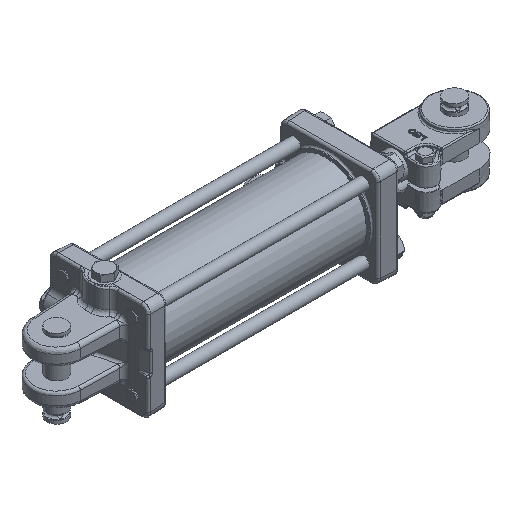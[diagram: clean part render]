
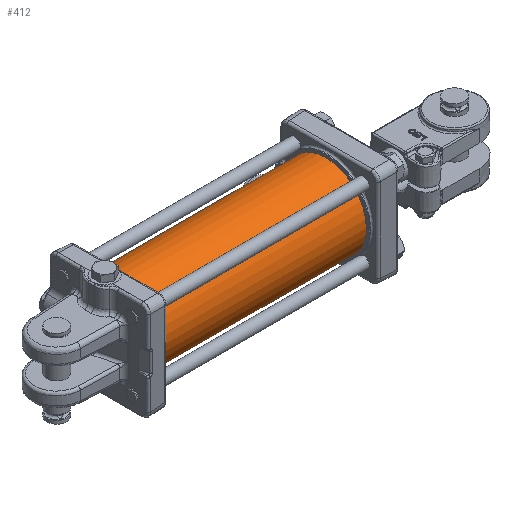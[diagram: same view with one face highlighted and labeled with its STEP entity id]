
A CAD part, isometric view. The second image highlights one B-rep face of the part: STEP entity #412.
In plain terms, the highlighted cylindrical face has radius 52.388 mm (diameter 104.775 mm), a full revolution.
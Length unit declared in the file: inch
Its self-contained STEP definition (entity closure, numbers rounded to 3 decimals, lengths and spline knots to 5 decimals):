
#169=CARTESIAN_POINT('',(3.8565,2.0625,0.0));
#170=VERTEX_POINT('',#169);
#171=CARTESIAN_POINT('',(3.9185,2.0625,0.0));
#172=VERTEX_POINT('',#171);
#173=CARTESIAN_POINT('',(3.8565,2.0625,0.0));
#174=CARTESIAN_POINT('',(3.8565,2.0625,-0.00389));
#175=CARTESIAN_POINT('',(3.85728,2.06249,-0.00804));
#176=CARTESIAN_POINT('',(3.86044,2.06244,-0.01568));
#177=CARTESIAN_POINT('',(3.86283,2.06241,-0.01917));
#178=CARTESIAN_POINT('',(3.86833,2.06235,-0.02467));
#179=CARTESIAN_POINT('',(3.87182,2.06232,-0.02706));
#180=CARTESIAN_POINT('',(3.87946,2.06228,-0.03022));
#181=CARTESIAN_POINT('',(3.88361,2.06227,-0.031));
#182=CARTESIAN_POINT('',(3.89139,2.06227,-0.031));
#183=CARTESIAN_POINT('',(3.89554,2.06228,-0.03022));
#184=CARTESIAN_POINT('',(3.90318,2.06232,-0.02706));
#185=CARTESIAN_POINT('',(3.90667,2.06235,-0.02467));
#186=CARTESIAN_POINT('',(3.91217,2.06241,-0.01917));
#187=CARTESIAN_POINT('',(3.91456,2.06244,-0.01568));
#188=CARTESIAN_POINT('',(3.91772,2.06249,-0.00804));
#189=CARTESIAN_POINT('',(3.9185,2.0625,-0.00389));
#190=CARTESIAN_POINT('',(3.9185,2.0625,0.0));
#191=B_SPLINE_CURVE_WITH_KNOTS('',3,(#173,#174,#175,#176,#177,#178,#179,#180,#181,#182,#183,#184,#185,#186,#187,#188,#189,#190),.UNSPECIFIED.,.F.,.U.,(4,2,2,2,2,2,2,2,4),(0.11864,0.1483,0.17796,0.20763,0.23729,0.26695,0.29661,0.32627,0.35593),.UNSPECIFIED.);
#192=EDGE_CURVE('',#170,#172,#191,.T.);
#194=CARTESIAN_POINT('',(3.9185,2.0625,0.0));
#195=CARTESIAN_POINT('',(3.9185,2.0625,0.00389));
#196=CARTESIAN_POINT('',(3.91772,2.06249,0.00804));
#197=CARTESIAN_POINT('',(3.91456,2.06244,0.01568));
#198=CARTESIAN_POINT('',(3.91217,2.06241,0.01917));
#199=CARTESIAN_POINT('',(3.90667,2.06235,0.02467));
#200=CARTESIAN_POINT('',(3.90318,2.06232,0.02706));
#201=CARTESIAN_POINT('',(3.89554,2.06228,0.03022));
#202=CARTESIAN_POINT('',(3.89139,2.06227,0.031));
#203=CARTESIAN_POINT('',(3.8875,2.06227,0.031));
#204=CARTESIAN_POINT('',(3.88361,2.06227,0.031));
#205=CARTESIAN_POINT('',(3.87946,2.06228,0.03022));
#206=CARTESIAN_POINT('',(3.87182,2.06232,0.02706));
#207=CARTESIAN_POINT('',(3.86833,2.06235,0.02467));
#208=CARTESIAN_POINT('',(3.86283,2.06241,0.01917));
#209=CARTESIAN_POINT('',(3.86044,2.06244,0.01568));
#210=CARTESIAN_POINT('',(3.85728,2.06249,0.00804));
#211=CARTESIAN_POINT('',(3.8565,2.0625,0.00389));
#212=CARTESIAN_POINT('',(3.8565,2.0625,0.0));
#213=B_SPLINE_CURVE_WITH_KNOTS('',3,(#194,#195,#196,#197,#198,#199,#200,#201,#202,#203,#204,#205,#206,#207,#208,#209,#210,#211,#212),.UNSPECIFIED.,.F.,.U.,(4,2,2,2,3,2,2,2,4),(0.35593,0.38559,0.41525,0.44491,0.47457,0.50423,0.53389,0.56355,0.59322),.UNSPECIFIED.);
#214=EDGE_CURVE('',#172,#170,#213,.T.);
#332=CARTESIAN_POINT('',(0.,0.0,0.0));
#333=DIRECTION('',(1.0,0.0,0.0));
#334=DIRECTION('',(0.0,1.0,0.0));
#335=AXIS2_PLACEMENT_3D('',#332,#333,#334);
#336=CYLINDRICAL_SURFACE('',#335,2.0625);
#337=CARTESIAN_POINT('',(-5.2345,2.0625,0.0));
#338=VERTEX_POINT('',#337);
#339=CARTESIAN_POINT('',(-5.2345,0.0,0.0));
#340=DIRECTION('',(1.0,0.0,0.0));
#341=DIRECTION('',(0.0,1.0,0.0));
#342=AXIS2_PLACEMENT_3D('',#339,#340,#341);
#343=CIRCLE('',#342,2.0625);
#344=EDGE_CURVE('',#338,#338,#343,.T.);
#345=ORIENTED_EDGE('',*,*,#344,.T.);
#346=EDGE_LOOP('',(#345));
#347=FACE_OUTER_BOUND('',#346,.T.);
#348=CARTESIAN_POINT('',(5.2345,2.0625,0.0));
#349=VERTEX_POINT('',#348);
#350=CARTESIAN_POINT('',(5.2345,0.0,0.0));
#351=DIRECTION('',(1.0,0.0,0.0));
#352=DIRECTION('',(0.0,1.0,0.0));
#353=AXIS2_PLACEMENT_3D('',#350,#351,#352);
#354=CIRCLE('',#353,2.0625);
#355=EDGE_CURVE('',#349,#349,#354,.T.);
#356=ORIENTED_EDGE('',*,*,#355,.F.);
#357=EDGE_LOOP('',(#356));
#358=FACE_BOUND('',#357,.T.);
#359=CARTESIAN_POINT('',(4.213,2.0625,0.0));
#360=VERTEX_POINT('',#359);
#361=CARTESIAN_POINT('',(4.322,2.0625,0.0));
#362=VERTEX_POINT('',#361);
#363=CARTESIAN_POINT('',(4.213,2.0625,0.));
#364=CARTESIAN_POINT('',(4.213,2.0625,-0.00684));
#365=CARTESIAN_POINT('',(4.21437,2.06246,-0.01414));
#366=CARTESIAN_POINT('',(4.21993,2.06233,-0.02757));
#367=CARTESIAN_POINT('',(4.22412,2.06223,-0.0337));
#368=CARTESIAN_POINT('',(4.2338,2.06205,-0.04338));
#369=CARTESIAN_POINT('',(4.23993,2.06195,-0.04757));
#370=CARTESIAN_POINT('',(4.25336,2.06182,-0.05313));
#371=CARTESIAN_POINT('',(4.26066,2.06178,-0.0545));
#372=CARTESIAN_POINT('',(4.27434,2.06178,-0.0545));
#373=CARTESIAN_POINT('',(4.28164,2.06182,-0.05313));
#374=CARTESIAN_POINT('',(4.29507,2.06195,-0.04757));
#375=CARTESIAN_POINT('',(4.3012,2.06205,-0.04338));
#376=CARTESIAN_POINT('',(4.31088,2.06223,-0.0337));
#377=CARTESIAN_POINT('',(4.31507,2.06233,-0.02757));
#378=CARTESIAN_POINT('',(4.32063,2.06246,-0.01414));
#379=CARTESIAN_POINT('',(4.322,2.0625,-0.00684));
#380=CARTESIAN_POINT('',(4.322,2.0625,0.));
#381=B_SPLINE_CURVE_WITH_KNOTS('',3,(#363,#364,#365,#366,#367,#368,#369,#370,#371,#372,#373,#374,#375,#376,#377,#378,#379,#380),.UNSPECIFIED.,.F.,.U.,(4,2,2,2,2,2,2,2,4),(0.20859,0.26074,0.31288,0.36503,0.41718,0.46933,0.52147,0.57362,0.62577),.UNSPECIFIED.);
#382=EDGE_CURVE('',#360,#362,#381,.T.);
#383=ORIENTED_EDGE('',*,*,#382,.T.);
#384=CARTESIAN_POINT('',(4.322,2.0625,0.));
#385=CARTESIAN_POINT('',(4.322,2.0625,0.00684));
#386=CARTESIAN_POINT('',(4.32063,2.06246,0.01414));
#387=CARTESIAN_POINT('',(4.31507,2.06233,0.02757));
#388=CARTESIAN_POINT('',(4.31088,2.06223,0.0337));
#389=CARTESIAN_POINT('',(4.3012,2.06205,0.04338));
#390=CARTESIAN_POINT('',(4.29507,2.06195,0.04757));
#391=CARTESIAN_POINT('',(4.28164,2.06182,0.05313));
#392=CARTESIAN_POINT('',(4.27434,2.06178,0.0545));
#393=CARTESIAN_POINT('',(4.2675,2.06178,0.0545));
#394=CARTESIAN_POINT('',(4.26066,2.06178,0.0545));
#395=CARTESIAN_POINT('',(4.25336,2.06182,0.05313));
#396=CARTESIAN_POINT('',(4.23993,2.06195,0.04757));
#397=CARTESIAN_POINT('',(4.2338,2.06205,0.04338));
#398=CARTESIAN_POINT('',(4.22412,2.06223,0.0337));
#399=CARTESIAN_POINT('',(4.21993,2.06233,0.02757));
#400=CARTESIAN_POINT('',(4.21437,2.06246,0.01414));
#401=CARTESIAN_POINT('',(4.213,2.0625,0.00684));
#402=CARTESIAN_POINT('',(4.213,2.0625,0.));
#403=B_SPLINE_CURVE_WITH_KNOTS('',3,(#384,#385,#386,#387,#388,#389,#390,#391,#392,#393,#394,#395,#396,#397,#398,#399,#400,#401,#402),.UNSPECIFIED.,.F.,.U.,(4,2,2,2,3,2,2,2,4),(0.62577,0.67792,0.73006,0.78221,0.83436,0.8865,0.93865,0.9908,1.04295),.UNSPECIFIED.);
#404=EDGE_CURVE('',#362,#360,#403,.T.);
#405=ORIENTED_EDGE('',*,*,#404,.T.);
#406=EDGE_LOOP('',(#383,#405));
#407=FACE_BOUND('',#406,.T.);
#408=ORIENTED_EDGE('',*,*,#192,.T.);
#409=ORIENTED_EDGE('',*,*,#214,.T.);
#410=EDGE_LOOP('',(#408,#409));
#411=FACE_BOUND('',#410,.T.);
#412=ADVANCED_FACE('',(#347,#358,#407,#411),#336,.T.);
